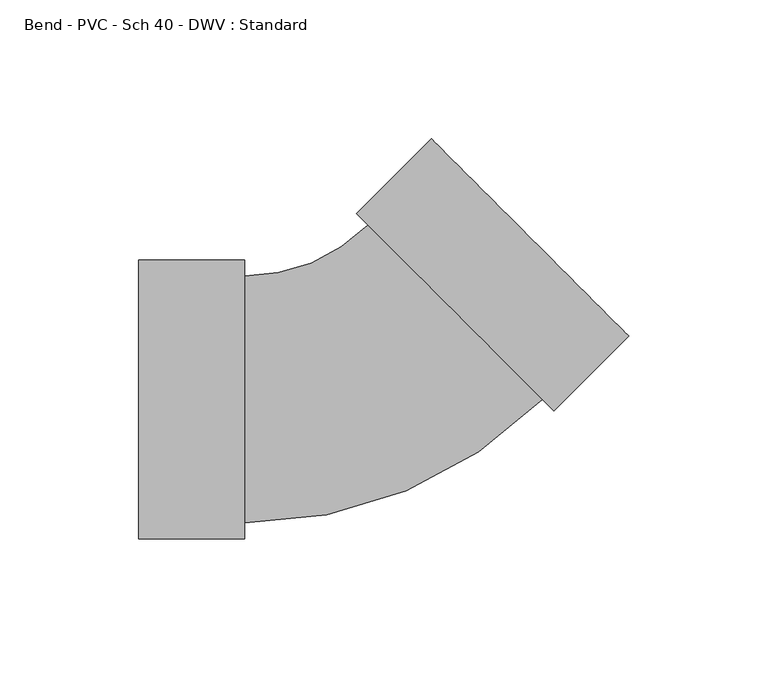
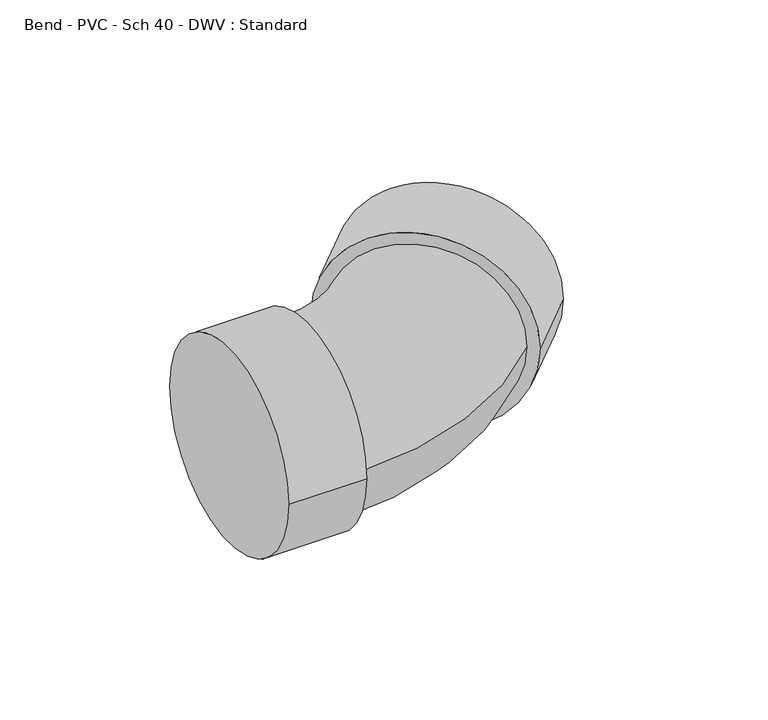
"""IFC4 building model written with IfcOpenShell, lengths in millimetres: pipe fitting geometry, Bend - PVC - Sch 40 - DWV : Standard."""

from ifc_helpers import new_model, si_unit, point, frame, origin, place, context, project, spatial, circle_curve, ellipse_curve, trimmed, source, transform, mapped, element, save
from ifc_brep_helpers import plane_surface, cylinder_surface, revolved_surface, advanced_brep


def bend_pvc_sch_40_dwv_standard_c4dda021(model_context):
    return source(origin(), model_context, "Body", "AdvancedBrep", [
        advanced_brep(
        [(-82.55, -50.2666, 0.0), (-82.55, 50.2666, 0.0), (-44.45, -50.2666, 0.0), (-44.45, 50.2666, 0.0), (-44.45, -44.45, 0.0), (-44.45, 44.45, 0.0), (0.0005058, 62.8617928, 0.0), (62.8617928, -0.0005058, 0.0), (66.9747171, -4.1134962, 0.0), (-4.1124184, 66.9747832, 0.0), (93.9157022, 22.8270554, 0.0), (22.8285667, 93.9153348, 0.0)],
        [
            (0, 1, circle_curve(frame((-82.55, 0.0, 0.0), z_axis=(-1.0, 0.0, 0.0), x_axis=(0.0, 1.0, 0.0)), 50.2666)),
            (1, 0, circle_curve(frame((-82.55, 0.0, 0.0), z_axis=(-1.0, 0.0, 0.0), x_axis=(0.0, 1.0, 0.0)), 50.2666)),
            (2, 3, circle_curve(frame((-44.45, 0.0, 0.0), z_axis=(1.0, 0.0, 0.0), x_axis=(0.0, 1.0, 0.0)), 50.2666)),
            (3, 2, circle_curve(frame((-44.45, 0.0, 0.0), z_axis=(1.0, 0.0, 0.0), x_axis=(0.0, 1.0, 0.0)), 50.2666)),
            (4, 5, circle_curve(frame((-44.45, 0.0, 0.0), z_axis=(-1.0, 0.0, 0.0), x_axis=(0.0, 1.0, 0.0)), 44.45)),
            (5, 4, circle_curve(frame((-44.45, 0.0, 0.0), z_axis=(-1.0, 0.0, 0.0), x_axis=(0.0, 1.0, 0.0)), 44.45)),
            (0, 2),
            (3, 1),
            (6, 5, circle_curve(frame((-44.45, 107.3130139, 0.0), z_axis=(0.0, 0.0, -1.0), x_axis=(0.0, -1.0, 0.0)), 62.8630139)),
            (4, 7, circle_curve(frame((-44.45, 107.3130139, 0.0), z_axis=(0.0, 0.0, 1.0), x_axis=(0.0, -1.0, 0.0)), 151.7630139)),
            (7, 6, circle_curve(frame((31.4311493, 31.4306435, 0.0), z_axis=(-0.7071124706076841, -0.7071010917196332, 0.0), x_axis=(-0.7071010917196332, 0.7071124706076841, 0.0)), 44.45)),
            (6, 7, circle_curve(frame((31.4311493, 31.4306435, 0.0), z_axis=(-0.7071124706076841, -0.7071010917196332, 0.0), x_axis=(-0.7071010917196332, 0.7071124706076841, 0.0)), 44.45)),
            (8, 9, circle_curve(frame((31.4311493, 31.4306435, 0.0), z_axis=(-0.7071124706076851, -0.7071010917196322, 0.0), x_axis=(-0.7071010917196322, 0.7071124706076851, 0.0)), 50.2666)),
            (9, 8, circle_curve(frame((31.4311493, 31.4306435, 0.0), z_axis=(-0.7071124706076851, -0.7071010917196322, 0.0), x_axis=(-0.7071010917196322, 0.7071124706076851, 0.0)), 50.2666)),
            (10, 11, circle_curve(frame((58.3721344, 58.3711951, 0.0), z_axis=(0.7071124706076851, 0.7071010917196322, 0.0), x_axis=(-0.7071010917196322, 0.7071124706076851, 0.0)), 50.2666)),
            (11, 10, circle_curve(frame((58.3721344, 58.3711951, 0.0), z_axis=(0.7071124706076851, 0.7071010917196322, 0.0), x_axis=(-0.7071010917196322, 0.7071124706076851, 0.0)), 50.2666)),
            (8, 10),
            (11, 9),
        ],
        [
            plane_surface(frame((-82.55, 0.0, 0.0), z_axis=(-1.0, 0.0, 0.0), x_axis=(0.0, 0.0, 1.0))),
            plane_surface(frame((-44.45, 0.0, 0.0), z_axis=(1.0, 0.0, 0.0), x_axis=(0.0, 0.0, 1.0))),
            cylinder_surface(frame((-82.55, 0.0, 0.0), z_axis=(-1.0, 0.0, 0.0), x_axis=(0.0, 1.0, 0.0)), 50.2666),
            revolved_surface(trimmed(ellipse_curve(frame((-44.45, 0.0, 0.0), z_axis=(-1.0, 0.0, 0.0), x_axis=(0.0, 1.0, 0.0)), 44.45, 44.45), [point((-44.45, -44.45, 0.0))], [point((-44.45, 44.45, 0.0))], True, "CARTESIAN"), (-44.45, 107.3130139, 0.0), (0.0, 0.0, 1.0)),
            revolved_surface(trimmed(ellipse_curve(frame((-44.45, 0.0, 0.0), z_axis=(-1.0, 0.0, 0.0), x_axis=(0.0, 1.0, 0.0)), 44.45, 44.45), [point((-44.45, 44.45, 0.0))], [point((-44.45, -44.45, 0.0))], True, "CARTESIAN"), (-44.45, 107.3130139, 0.0), (0.0, 0.0, 1.0)),
            plane_surface(frame((31.4311493, 31.4306435, 0.0), z_axis=(-0.7071124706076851, -0.7071010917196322, 0.0), x_axis=(0.0, 0.0, 1.0))),
            plane_surface(frame((58.3721344, 58.3711951, 0.0), z_axis=(0.7071124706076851, 0.7071010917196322, 0.0), x_axis=(0.0, 0.0, 1.0))),
            cylinder_surface(frame((31.4311493, 31.4306435, 0.0), z_axis=(-0.7071124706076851, -0.7071010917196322, 0.0), x_axis=(-0.7071010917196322, 0.7071124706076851, 0.0)), 50.2666),
        ],
        [
            (0, [[1, 2]]),
            (1, [[3, 4], [5, 6]]),
            (2, [[-1, 7, -4, 8]]),
            (2, [[-2, -8, -3, -7]]),
            (3, [[9, -5, 10, 11]]),
            (4, [[-9, 12, -10, -6]]),
            (5, [[13, 14], [-11, -12]]),
            (6, [[15, 16]]),
            (7, [[-13, 17, -16, 18]]),
            (7, [[-14, -18, -15, -17]]),
        ],
    ),
    ])


if __name__ == "__main__":
    model = new_model("IFC4")
    model_context = context("Model", 3, world=origin())
    ifc_project = project(units=[si_unit("LENGTHUNIT", "METRE", prefix="MILLI")], contexts=[model_context])
    site = spatial("IfcSite", under=ifc_project)
    building = spatial("IfcBuilding", under=site)
    placement = place(None, origin())
    bend_pvc_sch_40_dwv_standard_shape = bend_pvc_sch_40_dwv_standard_c4dda021(model_context)
    element("IfcPipeFitting", 1, ObjectType="Bend - PVC - Sch 40 - DWV : Standard", at=placement, inside=building, context=model_context, shape_type="MappedRepresentation", body=[
        mapped(bend_pvc_sch_40_dwv_standard_shape, transform((0.0, 0.0, 0.0), x_axis=(1.0, 0.0, 0.0), y_axis=(0.0, 1.0, 0.0), z_axis=(0.0, 0.0, 1.0))),
    ])
    save(model, "model.ifc")
